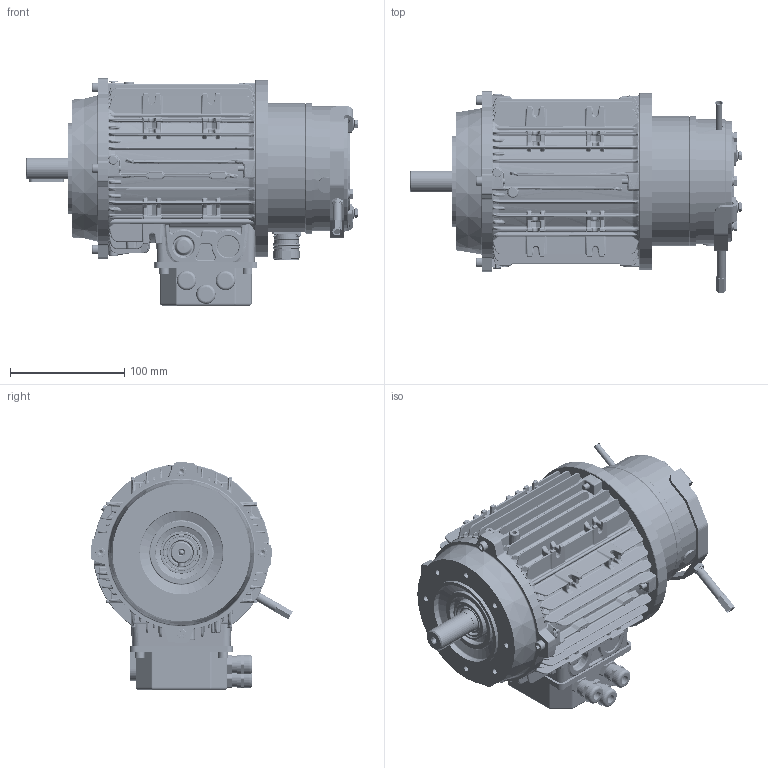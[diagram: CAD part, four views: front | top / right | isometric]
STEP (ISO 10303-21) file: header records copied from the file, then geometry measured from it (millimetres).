
FILE_DESCRIPTION(/* description */ (''),/* implementation_level */ '2;1');
FILE_NAME(/* name */ 'Z:\UTM\Sito\PMAC\BL-B14.80-P10.stp',/* time_stamp */ '2023-05-08T12:22:17+02:00',/* author */ ('cad3'),/* organization */ (''),/* preprocessor_version */ 'ST-DEVELOPER v18.1',/* originating_system */ 'Autodesk Inventor 2022',/* authorisation */ '');
FILE_SCHEMA (('AUTOMOTIVE_DESIGN { 1 0 10303 214 3 1 1 }'));
Products named in the file (1): BL-B14.80-P10
Bounding box: 290.7 x 176.55 x 199.1 mm (x, y, z)
Volume: 1111317.1 mm3; surface area: 523677.6 mm2
Topology: 3 solids, 32 shells, 8534 faces, 20980 edges, 12435 vertices
Faces by surface type: plane 2708, cylinder 2455, bspline 2249, torus 429, cone 366, sphere 327
Full cylindrical faces by diameter (mm): 0.9 x12, 1.7 x4, 2 x8, 2.9 x8, 3 x4, 3.2 x8, 3.242 x3, 3.3 x1, 4 x4, 4.134 x3, 4.2 x1, 4.3 x6, 4.5 x2, 4.917 x9, 5 x40, 5.2 x21, 5.3 x4, 5.5 x17, 6 x2, 6.88 x3, 6.917 x3, 7 x4, 7.1 x1, 7.8 x1, 8 x5, 8.4 x1, 8.5 x16, 9 x16, 10 x5, 12 x3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
Entity records: 345427 total; most frequent: CARTESIAN_POINT 144456, ORIENTED_EDGE 41496, DIRECTION 39943, EDGE_CURVE 20748, AXIS2_PLACEMENT_3D 16060, VERTEX_POINT 12434, EDGE_LOOP 9072, STYLED_ITEM 8537
